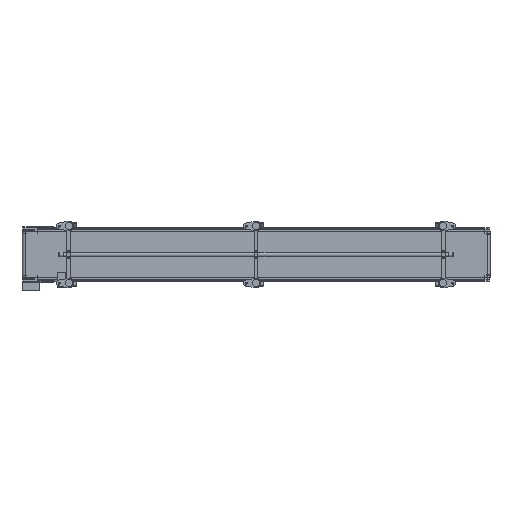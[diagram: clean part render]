
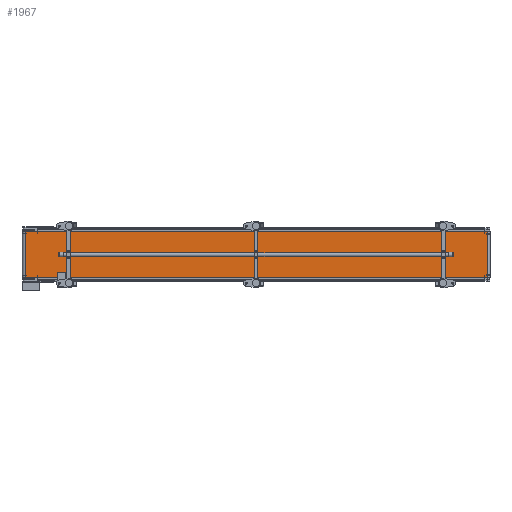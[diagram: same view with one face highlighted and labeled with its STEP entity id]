
A CAD part, front view. The second image highlights one B-rep face of the part: STEP entity #1967.
In plain terms, the highlighted planar face has unit normal (0.004, -1, 0).
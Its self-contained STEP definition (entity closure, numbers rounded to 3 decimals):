
#1967=ADVANCED_FACE('',(#4429),#4428,.F.);
#4428=PLANE('',#28874);
#4429=FACE_OUTER_BOUND('',#28875,.T.);
#28871=CARTESIAN_POINT('',(2996.054,-26.763,-160.));
#28872=DIRECTION('',(-0.004,1.,0.));
#28873=DIRECTION('',(-1.,-0.004,0.));
#28874=AXIS2_PLACEMENT_3D('',#28871,#28872,#28873);
#28875=EDGE_LOOP('',(#42212,#42213,#42214,#42215));
#42212=ORIENTED_EDGE('',*,*,#54325,.T.);
#42213=ORIENTED_EDGE('',*,*,#54319,.F.);
#42214=ORIENTED_EDGE('',*,*,#54320,.F.);
#42215=ORIENTED_EDGE('',*,*,#54315,.T.);
#54315=EDGE_CURVE('',#60408,#60401,#60409,.T.);
#54319=EDGE_CURVE('',#60428,#60421,#60435,.T.);
#54320=EDGE_CURVE('',#60408,#60428,#60441,.T.);
#54325=EDGE_CURVE('',#60401,#60421,#60475,.T.);
#60401=VERTEX_POINT('',#100700);
#60408=VERTEX_POINT('',#100705);
#60409=LINE('',#100706,#100707);
#60421=VERTEX_POINT('',#100713);
#60428=VERTEX_POINT('',#100718);
#60435=LINE('',#100723,#100724);
#60441=LINE('',#100726,#100727);
#60475=LINE('',#100747,#100748);
#100700=CARTESIAN_POINT('',(19.502,-37.7,-150.));
#100705=CARTESIAN_POINT('',(19.502,-37.7,150.));
#100706=CARTESIAN_POINT('',(19.502,-37.7,150.));
#100707=VECTOR('',#100708,300.);
#100708=DIRECTION('',(0.,0.,-1.));
#100713=CARTESIAN_POINT('',(2986.054,-26.8,-150.));
#100718=CARTESIAN_POINT('',(2986.054,-26.8,150.));
#100723=CARTESIAN_POINT('',(2986.054,-26.8,150.));
#100724=VECTOR('',#100725,300.);
#100725=DIRECTION('',(0.,0.,-1.));
#100726=CARTESIAN_POINT('',(19.502,-37.7,150.));
#100727=VECTOR('',#100728,2966.572);
#100728=DIRECTION('',(1.,0.004,0.));
#100747=CARTESIAN_POINT('',(19.502,-37.7,-150.));
#100748=VECTOR('',#100749,2966.572);
#100749=DIRECTION('',(1.,0.004,0.));
